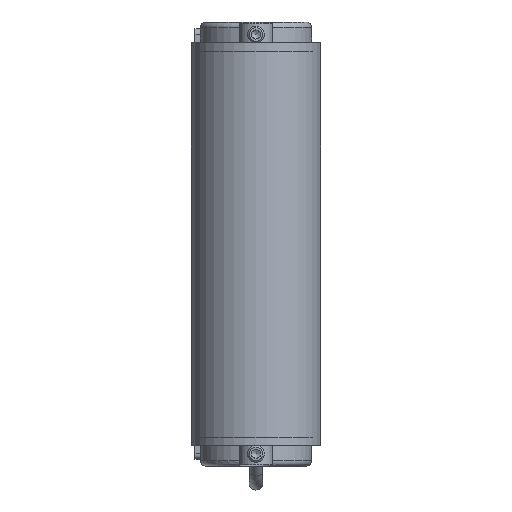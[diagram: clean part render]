
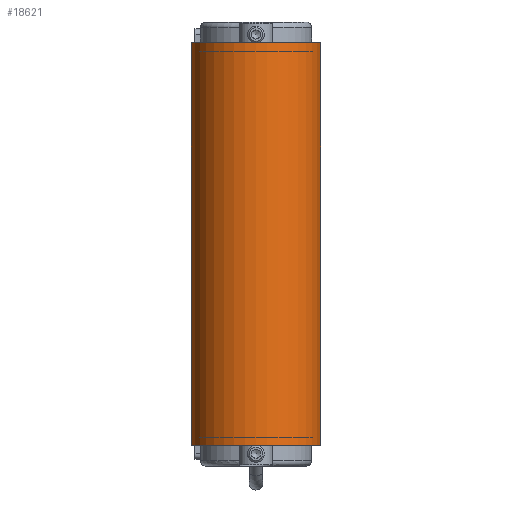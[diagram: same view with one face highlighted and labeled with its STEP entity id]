
A CAD part, front view. The second image highlights one B-rep face of the part: STEP entity #18621.
In plain terms, the highlighted cylindrical face has radius 23.3 mm (diameter 46.6 mm), a partial arc.
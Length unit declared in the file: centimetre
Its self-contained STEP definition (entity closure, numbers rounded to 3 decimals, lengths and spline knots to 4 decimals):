
#543=CYLINDRICAL_SURFACE('',#19904,2.33);
#1135=CIRCLE('',#19899,2.33);
#1138=CIRCLE('',#19905,2.33);
#1923=FACE_OUTER_BOUND('',#2936,.T.);
#2936=EDGE_LOOP('',(#12566,#12567,#12568,#12569));
#4213=LINE('',#27388,#5713);
#4214=LINE('',#27392,#5714);
#5713=VECTOR('',#22452,1.);
#5714=VECTOR('',#22457,1.);
#7376=VERTEX_POINT('',#27371);
#7377=VERTEX_POINT('',#27372);
#7382=VERTEX_POINT('',#27386);
#7383=VERTEX_POINT('',#27390);
#9405=EDGE_CURVE('',#7376,#7377,#1135,.T.);
#9413=EDGE_CURVE('',#7382,#7377,#4213,.T.);
#9414=EDGE_CURVE('',#7382,#7383,#1138,.T.);
#9415=EDGE_CURVE('',#7376,#7383,#4214,.T.);
#12566=ORIENTED_EDGE('',*,*,#9414,.T.);
#12567=ORIENTED_EDGE('',*,*,#9415,.F.);
#12568=ORIENTED_EDGE('',*,*,#9405,.T.);
#12569=ORIENTED_EDGE('',*,*,#9413,.F.);
#18621=ADVANCED_FACE('',(#1923),#543,.T.);
#19899=AXIS2_PLACEMENT_3D('',#27373,#22437,#22438);
#19904=AXIS2_PLACEMENT_3D('',#27389,#22453,#22454);
#19905=AXIS2_PLACEMENT_3D('',#27391,#22455,#22456);
#22437=DIRECTION('center_axis',(0.,0.,
-1.));
#22438=DIRECTION('ref_axis',(-1.,0.,0.));
#22452=DIRECTION('',(0.,0.,1.));
#22453=DIRECTION('center_axis',(0.,0.,
-1.));
#22454=DIRECTION('ref_axis',(-1.,0.,0.));
#22455=DIRECTION('center_axis',(0.,0.,
1.));
#22456=DIRECTION('ref_axis',(-1.,0.,0.));
#22457=DIRECTION('',(0.,0.,-1.));
#27371=CARTESIAN_POINT('',(2.33,-57.,7.25));
#27372=CARTESIAN_POINT('',(-2.33,-57.,7.25));
#27373=CARTESIAN_POINT('Origin',(0.,-57.,7.25));
#27386=CARTESIAN_POINT('',(-2.33,-57.,-7.25));
#27388=CARTESIAN_POINT('',(-2.33,-57.,0.));
#27389=CARTESIAN_POINT('Origin',(0.,-57.,0.));
#27390=CARTESIAN_POINT('',(2.33,-57.,-7.25));
#27391=CARTESIAN_POINT('Origin',(0.,-57.,-7.25));
#27392=CARTESIAN_POINT('',(2.33,-57.,0.));
